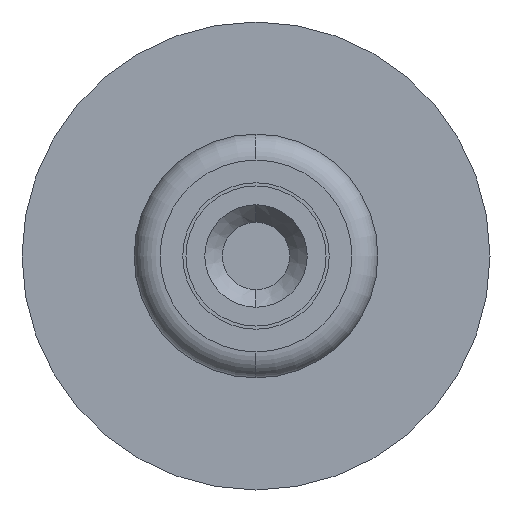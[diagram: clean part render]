
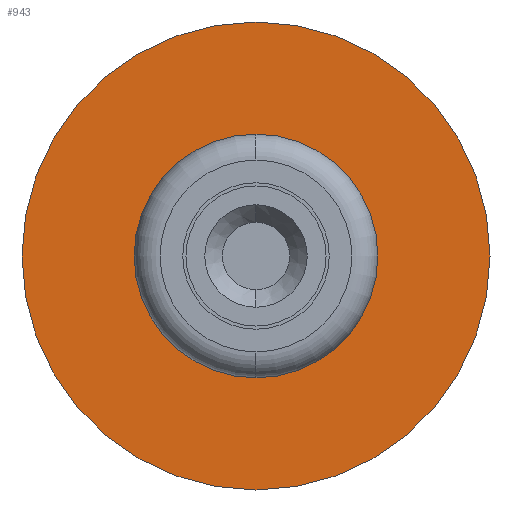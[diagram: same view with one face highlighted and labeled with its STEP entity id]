
A CAD part, left-side view. The second image highlights one B-rep face of the part: STEP entity #943.
In plain terms, the highlighted planar face has unit normal (-1, 0, 0).
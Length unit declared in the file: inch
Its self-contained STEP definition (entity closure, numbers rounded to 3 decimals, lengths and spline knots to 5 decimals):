
#17 = CARTESIAN_POINT ( 'NONE',  ( 0.2665, 0., 0. ) ) ;
#25 = DIRECTION ( 'NONE',  ( 1., 0., 0. ) ) ;
#83 = CARTESIAN_POINT ( 'NONE',  ( 0.2665, 0., 0. ) ) ;
#120 = AXIS2_PLACEMENT_3D ( 'NONE', #594, #25, #143 ) ;
#143 = DIRECTION ( 'NONE',  ( 0., 0., -1. ) ) ;
#223 = EDGE_LOOP ( 'NONE', ( #1251, #434 ) ) ;
#247 = CARTESIAN_POINT ( 'NONE',  ( 0.2665, 0., 0. ) ) ;
#254 = FACE_OUTER_BOUND ( 'NONE', #417, .T. ) ;
#297 = DIRECTION ( 'NONE',  ( -1., 0., 0. ) ) ;
#332 = CIRCLE ( 'NONE', #1819, 0.09025 ) ;
#403 = CARTESIAN_POINT ( 'NONE',  ( 0.2665, 0., -0.09025 ) ) ;
#417 = EDGE_LOOP ( 'NONE', ( #929, #1808 ) ) ;
#434 = ORIENTED_EDGE ( 'NONE', *, *, #945, .F. ) ;
#594 = CARTESIAN_POINT ( 'NONE',  ( 0.2665, 0.047, 0. ) ) ;
#598 = DIRECTION ( 'NONE',  ( 0., 0., 1. ) ) ;
#691 = DIRECTION ( 'NONE',  ( 0., 0., 1. ) ) ;
#716 = AXIS2_PLACEMENT_3D ( 'NONE', #83, #1568, #947 ) ;
#726 = CARTESIAN_POINT ( 'NONE',  ( 0.2665, 0., 0.09025 ) ) ;
#738 = CIRCLE ( 'NONE', #1724, 0.047 ) ;
#881 = CARTESIAN_POINT ( 'NONE',  ( 0.2665, 0., -0.047 ) ) ;
#882 = VERTEX_POINT ( 'NONE', #726 ) ;
#889 = DIRECTION ( 'NONE',  ( 0., 0., 1. ) ) ;
#929 = ORIENTED_EDGE ( 'NONE', *, *, #1613, .T. ) ;
#943 = ADVANCED_FACE ( 'NONE', ( #1629, #254 ), #1590, .F. ) ;
#945 = EDGE_CURVE ( 'NONE', #1304, #1728, #1564, .T. ) ;
#947 = DIRECTION ( 'NONE',  ( 0., 0., 1. ) ) ;
#1149 = CIRCLE ( 'NONE', #716, 0.09025 ) ;
#1185 = CARTESIAN_POINT ( 'NONE',  ( 0.2665, 0., 0. ) ) ;
#1246 = EDGE_CURVE ( 'NONE', #1728, #1304, #738, .T. ) ;
#1251 = ORIENTED_EDGE ( 'NONE', *, *, #1246, .F. ) ;
#1282 = DIRECTION ( 'NONE',  ( -1., 0., 0. ) ) ;
#1304 = VERTEX_POINT ( 'NONE', #881 ) ;
#1352 = EDGE_CURVE ( 'NONE', #1735, #882, #332, .T. ) ;
#1561 = CARTESIAN_POINT ( 'NONE',  ( 0.2665, 0., 0.047 ) ) ;
#1564 = CIRCLE ( 'NONE', #1776, 0.047 ) ;
#1568 = DIRECTION ( 'NONE',  ( -1., 0., 0. ) ) ;
#1590 = PLANE ( 'NONE',  #120 ) ;
#1613 = EDGE_CURVE ( 'NONE', #882, #1735, #1149, .T. ) ;
#1615 = DIRECTION ( 'NONE',  ( -1., 0., 0. ) ) ;
#1629 = FACE_BOUND ( 'NONE', #223, .T. ) ;
#1724 = AXIS2_PLACEMENT_3D ( 'NONE', #247, #1282, #691 ) ;
#1728 = VERTEX_POINT ( 'NONE', #1561 ) ;
#1735 = VERTEX_POINT ( 'NONE', #403 ) ;
#1776 = AXIS2_PLACEMENT_3D ( 'NONE', #1185, #297, #889 ) ;
#1808 = ORIENTED_EDGE ( 'NONE', *, *, #1352, .T. ) ;
#1819 = AXIS2_PLACEMENT_3D ( 'NONE', #17, #1615, #598 ) ;
